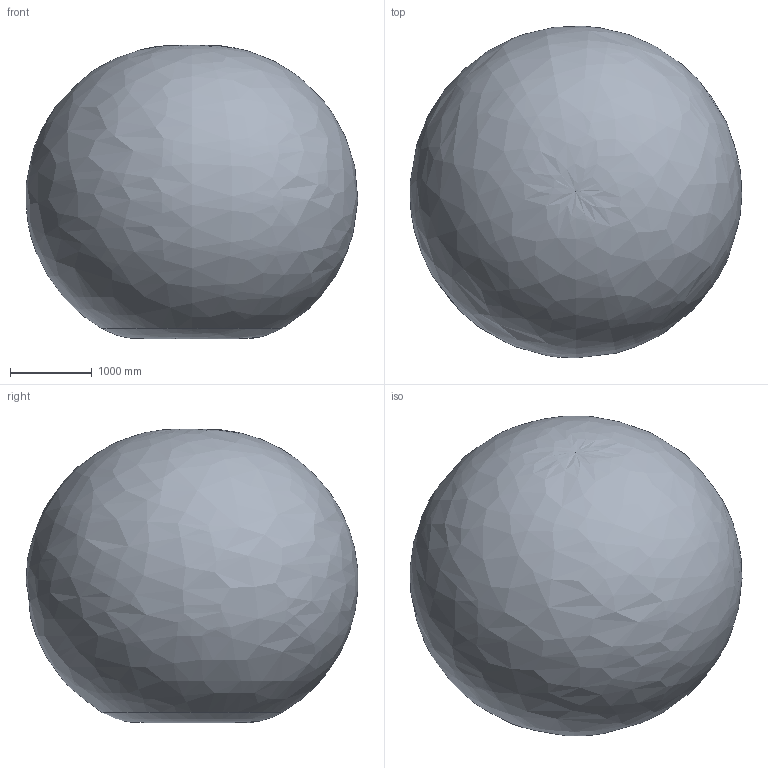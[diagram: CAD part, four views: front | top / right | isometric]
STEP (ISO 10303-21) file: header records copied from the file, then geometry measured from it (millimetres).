
FILE_DESCRIPTION(/* description */ (''),/* implementation_level */ '2;1');
FILE_NAME(/* name */ 'E:\组装完成的图纸\IRB 4600\IRB 4600-60-2.05\IRB 4600-60-2.05(带工作域)).stp',/* time_stamp */ '2023-11-04T14:33:41+08:00',/* author */ ('Administrator'),/* organization */ (''),/* preprocessor_version */ 'ST-DEVELOPER v16.5',/* originating_system */ 'Autodesk Inventor 2017',/* authorisation */ '');
FILE_SCHEMA (('AUTOMOTIVE_DESIGN { 1 0 10303 214 3 1 1 }'));
Products named in the file (12): 部件1; IRB4600_60kg-205_BASE_CAD_rev04; IRB4600_60kg-205_CABLES_LINK1_rev03; IRB4600_60kg-205_CABLES_LINK2_rev03; IRB4600_60kg-205_CABLES_LINK3_rev03; IRB4600_60kg-205_LINK1_CAD_rev04; IRB4600_60kg-205_LINK2_CAD_rev04; IRB4600_60kg-205_LINK3_CAD_rev04; IRB4600_60kg-205_LINK4_CAD_rev04; IRB4600_60kg-205_LINK5_CAD_rev04; IRB4600_60kg-205_LINK6_CAD_rev04; IRB4600_60kg-205_WORKING-SPACE_rev00
Assembly tree (11 placements, depth 2):
  部件1
    IRB4600_60kg-205_BASE_CAD_rev04
    IRB4600_60kg-205_CABLES_LINK1_rev03
    IRB4600_60kg-205_CABLES_LINK2_rev03
    IRB4600_60kg-205_CABLES_LINK3_rev03
    IRB4600_60kg-205_LINK1_CAD_rev04
    IRB4600_60kg-205_LINK2_CAD_rev04
    IRB4600_60kg-205_LINK3_CAD_rev04
    IRB4600_60kg-205_LINK4_CAD_rev04
    IRB4600_60kg-205_LINK5_CAD_rev04
    IRB4600_60kg-205_LINK6_CAD_rev04
    IRB4600_60kg-205_WORKING-SPACE_rev00
Bounding box: 4062.9 x 4065.71 x 3599.34 mm (x, y, z)
Volume: 32535691328 mm3; surface area: 59387248.9 mm2
Topology: 11 solids, 14 shells, 4010 faces, 10176 edges, 6504 vertices
Faces by surface type: plane 1797, cylinder 834, bspline 791, cone 470, torus 92, sphere 26
Full cylindrical faces by diameter (mm): 5 x6, 5.263 x1, 5.5 x2, 6 x8, 6.8 x16, 6.9 x4, 6.959 x1, 7 x7, 7.1 x5, 7.5 x16, 8 x2, 8.3 x2, 8.5 x12, 9.5 x1, 10 x1, 10.2 x1, 10.22 x12, 10.5 x2, 11 x3, 11.9 x3, 12 x43, 13 x4, 13.3 x21, 15.551 x1, 15.665 x5, 16 x1, 16.27 x16, 16.3 x30, 17 x2, 18 x9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
Entity records: 194441 total; most frequent: CARTESIAN_POINT 104110, ORIENTED_EDGE 19078, DIRECTION 17455, EDGE_CURVE 9539, AXIS2_PLACEMENT_3D 6848, VERTEX_POINT 6379, EDGE_LOOP 4944, FACE_OUTER_BOUND 4010
